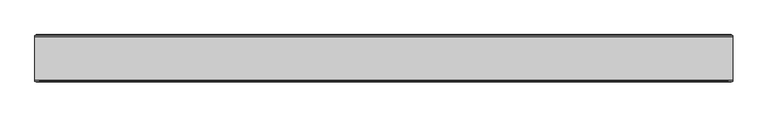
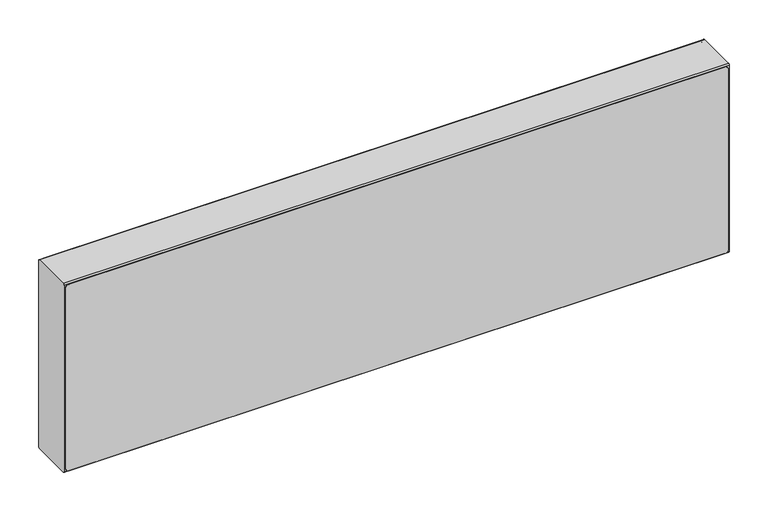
"""IFC4 building model written with IfcOpenShell, lengths in millimetres: proxy geometry, EVRA CV Д : 21-300-1000."""

import ifcopenshell
import ifcopenshell.guid

model = None  # the IFC model being written
_history = None  # IfcOwnerHistory: only IFC2X3 demands one
_inside = {}  # id of a spatial element -> (the spatial element, [elements in it])
_under = {}  # id of a project, library or spatial element -> (it, [spatial elements below it])
_declared = {}  # id of a project -> (the project, [libraries it declares])
_typed = {}  # id of a type object -> (the type object, [elements of that type])
_made_of = {}  # id of a material, layer set ... -> (it, [elements and type objects made of it])


def new_model(schema):
    """Start an empty IFC model of exactly this schema.

    Asked for "IFC4X3", IfcOpenShell would pick the latest addendum, in which some entities
    have other attributes; the version numbers below select the first issue.
    IFC2X3 requires an IfcOwnerHistory on every rooted entity: one is made here for all.
    """
    global model, _history
    if schema == "IFC4X3":
        model = ifcopenshell.file(schema_version=(4, 3, 0, 0))
    else:
        model = ifcopenshell.file(schema=schema)
    _inside.clear()
    _under.clear()
    _declared.clear()
    _typed.clear()
    _made_of.clear()
    _history = None
    if model.schema == "IFC2X3":
        org = make("IfcOrganization", Name="unknown")
        user = make(
            "IfcPersonAndOrganization",
            ThePerson=make("IfcPerson", FamilyName="unknown"),
            TheOrganization=org,
        )
        app = make(
            "IfcApplication",
            ApplicationDeveloper=org,
            Version="unknown",
            ApplicationFullName="unknown",
            ApplicationIdentifier="unknown",
        )
        _history = make(
            "IfcOwnerHistory",
            OwningUser=user,
            OwningApplication=app,
            ChangeAction="ADDED",
            CreationDate=0,
        )
    return model


def make(cls, **values):
    """One entity of the class cls with the attributes given. An attribute that is None is left unset."""
    return model.create_entity(
        cls, **{name: value for name, value in values.items() if value is not None}
    )


def rooted(cls, **values):
    """An entity with a GlobalId (a new one), such as an element, a storey or a relation."""
    return make(cls, GlobalId=ifcopenshell.guid.new(), OwnerHistory=_history, **values)


def si_unit(unit_type, name, prefix=None):
    """IfcSIUnit, for example si_unit("LENGTHUNIT", "METRE", prefix="MILLI")."""
    return make("IfcSIUnit", UnitType=unit_type, Prefix=prefix, Name=name)


def assignment(units):
    """IfcUnitAssignment: the units of a project."""
    return None if units is None else make("IfcUnitAssignment", Units=units)


def point(xyz):
    """IfcCartesianPoint."""
    return None if xyz is None else make("IfcCartesianPoint", Coordinates=xyz)


def direction(xyz):
    """IfcDirection."""
    return None if xyz is None else make("IfcDirection", DirectionRatios=xyz)


def frame(location, z_axis=None, x_axis=None):
    """IfcAxis2Placement3D, a coordinate frame: its origin and axes. An axis left out is left unset."""
    return make(
        "IfcAxis2Placement3D",
        Location=point(location),
        Axis=direction(z_axis),
        RefDirection=direction(x_axis),
    )


def frame_2d(location, x_axis=None):
    """IfcAxis2Placement2D, a coordinate frame in the plane: its origin and x axis."""
    return make(
        "IfcAxis2Placement2D", Location=point(location), RefDirection=direction(x_axis)
    )


def origin():
    """The frame at (0, 0, 0) with its axes left unset."""
    return frame((0.0, 0.0, 0.0))


def place(relative_to, where):
    """IfcLocalPlacement: puts the frame where relative to a parent placement (None: the world)."""
    return make(
        "IfcLocalPlacement", PlacementRelTo=relative_to, RelativePlacement=where
    )


def context(
    kind, dimensions, precision=None, world=None, true_north=None, identifier=None
):
    """IfcGeometricRepresentationContext, for example the 3D "Model" context."""
    return make(
        "IfcGeometricRepresentationContext",
        ContextIdentifier=identifier,
        ContextType=kind,
        CoordinateSpaceDimension=dimensions,
        Precision=precision,
        WorldCoordinateSystem=world,
        TrueNorth=true_north,
    )


def project(units=None, contexts=None):
    """IfcProject with its units and contexts."""
    return rooted(
        "IfcProject",
        Name="project",
        RepresentationContexts=contexts,
        UnitsInContext=assignment(units),
    )


def spatial(cls, under=None, at=None, **own):
    """A site, building, storey or space (cls), placed at a placement, below another one or the project."""
    s = rooted(cls, ObjectPlacement=at, **own)
    if under is not None:
        _under.setdefault(under.id(), (under, []))[1].append(s)
    return s


def polyline(points):
    """IfcPolyline through the points."""
    return make("IfcPolyline", Points=[point(p) for p in points])


def circle_curve(where, radius):
    """IfcCircle in the frame where."""
    return make("IfcCircle", Position=where, Radius=radius)


def trimmed(basis, trim1, trim2, sense, master):
    """IfcTrimmedCurve: the piece of a basis curve between two trims."""
    return make(
        "IfcTrimmedCurve",
        BasisCurve=basis,
        Trim1=trim1,
        Trim2=trim2,
        SenseAgreement=sense,
        MasterRepresentation=master,
    )


def segment(curve, same_sense, transition):
    """IfcCompositeCurveSegment."""
    return make(
        "IfcCompositeCurveSegment",
        Transition=transition,
        SameSense=same_sense,
        ParentCurve=curve,
    )


def composite_curve(segments, self_intersect=None):
    """IfcCompositeCurve: segments joined end to end."""
    return make("IfcCompositeCurve", Segments=segments, SelfIntersect=self_intersect)


def outline(outer, holes=None, kind="AREA"):
    """IfcArbitraryClosedProfileDef: a profile drawn as a closed curve; with holes, ...WithVoids."""
    if holes is None:
        return make("IfcArbitraryClosedProfileDef", ProfileType=kind, OuterCurve=outer)
    return make(
        "IfcArbitraryProfileDefWithVoids",
        ProfileType=kind,
        OuterCurve=outer,
        InnerCurves=holes,
    )


def extrude(swept, where, along, depth):
    """IfcExtrudedAreaSolid: the profile swept, set in the frame where, extruded along a direction by depth."""
    return make(
        "IfcExtrudedAreaSolid",
        SweptArea=swept,
        Position=where,
        ExtrudedDirection=direction(along),
        Depth=depth,
    )


def shape(context_of_items, identifier, shape_type, items):
    """IfcShapeRepresentation: the items that make up one representation, for example the "Body"."""
    return make(
        "IfcShapeRepresentation",
        ContextOfItems=context_of_items,
        RepresentationIdentifier=identifier,
        RepresentationType=shape_type,
        Items=items,
    )


def source(mapping_origin, context_of_items, identifier, shape_type, items):
    """IfcRepresentationMap: a shape defined once, which mapped items show again and again."""
    return make(
        "IfcRepresentationMap",
        MappingOrigin=mapping_origin,
        MappedRepresentation=shape(context_of_items, identifier, shape_type, items),
    )


def transform(
    local_origin,
    x_axis=None,
    y_axis=None,
    z_axis=None,
    scale=None,
    scale2=None,
    scale3=None,
    uniform=True,
):
    """IfcCartesianTransformationOperator3D, or its non-uniform kind. x_axis, y_axis, z_axis: its Axis1, 2, 3."""
    if uniform:
        return make(
            "IfcCartesianTransformationOperator3D",
            Axis1=direction(x_axis),
            Axis2=direction(y_axis),
            LocalOrigin=point(local_origin),
            Scale=scale,
            Axis3=direction(z_axis),
        )
    return make(
        "IfcCartesianTransformationOperator3DnonUniform",
        Axis1=direction(x_axis),
        Axis2=direction(y_axis),
        LocalOrigin=point(local_origin),
        Scale=scale,
        Axis3=direction(z_axis),
        Scale2=scale2,
        Scale3=scale3,
    )


def mapped(mapping_source, mapping_target):
    """IfcMappedItem: shows the shape of a source again, moved by a transform."""
    return make(
        "IfcMappedItem", MappingSource=mapping_source, MappingTarget=mapping_target
    )


def made_of(thing, what):
    """Note that an element or type object is made of a material, layer set ...; save() writes the relation."""
    if what is not None:
        _made_of.setdefault(what.id(), (what, []))[1].append(thing)
    return thing


def element(
    cls,
    number,
    at=None,
    inside=None,
    cuts=None,
    type_object=None,
    material=None,
    context=None,
    identifier="Body",
    shape_type=None,
    held_by="IfcProductDefinitionShape",
    body=None,
    shapes=None,
    **own,
):
    """One element of the class cls, such as IfcWall. Its Tag is "e" and its number.

    at: its placement. inside: the storey or other place that contains it. cuts: it is an
    opening in that element (IfcRelVoidsElement). A single representation is given by context,
    identifier, shape_type and body (its items); several are given by shapes. held_by: the class
    of the entity that holds the representations. save() writes the other relations.
    """
    e = rooted(cls, Tag="e%d" % number, ObjectPlacement=at, **own)
    if body is not None:
        shapes = [shape(context, identifier, shape_type, body)]
    if shapes is not None:
        e.Representation = make(held_by, Representations=shapes)
    if inside is not None:
        _inside.setdefault(inside.id(), (inside, []))[1].append(e)
    if cuts is not None:
        rooted(
            "IfcRelVoidsElement", RelatingBuildingElement=cuts, RelatedOpeningElement=e
        )
    if type_object is not None:
        _typed.setdefault(type_object.id(), (type_object, []))[1].append(e)
    return made_of(e, material)


def aggregate(whole, parts):
    """IfcRelAggregates: a whole, such as a stair, and the parts it consists of."""
    return rooted("IfcRelAggregates", RelatingObject=whole, RelatedObjects=parts)


def save(model, path):
    """Write the relations noted so far, then the file.

    IfcRelAggregates (storeys below a building ...), IfcRelContainedInSpatialStructure (elements
    in a storey), IfcRelDefinesByType, IfcRelAssociatesMaterial and IfcRelDeclares: one each for
    every whole, place, type object, material and project.
    """
    for whole, parts in _under.values():
        aggregate(whole, parts)
    for where, things in _inside.values():
        rooted(
            "IfcRelContainedInSpatialStructure",
            RelatedElements=things,
            RelatingStructure=where,
        )
    for kind, things in _typed.values():
        rooted("IfcRelDefinesByType", RelatedObjects=things, RelatingType=kind)
    for what, things in _made_of.values():
        rooted("IfcRelAssociatesMaterial", RelatedObjects=things, RelatingMaterial=what)
    for by, libraries in _declared.values():
        rooted("IfcRelDeclares", RelatingContext=by, RelatedDefinitions=libraries)
    model.write(path)


def mechanical_equipment_054ffeb9(model_context):
    return source(origin(), model_context, "Body", "SweptSolid", [
        extrude(outline(composite_curve([segment(polyline([(398.0, 693.0), (398.0, -293.0)]), True, "CONTINUOUS"), segment(trimmed(circle_curve(frame_2d((393.0, -293.0)), 5.0), [point((398.0, -293.0))], [point((393.0, -298.0))], False, "CARTESIAN"), True, "CONTINUOUS"), segment(polyline([(393.0, -298.0), (107.0, -298.0)]), True, "CONTINUOUS"), segment(trimmed(circle_curve(frame_2d((107.0, -293.0)), 5.0), [point((107.0, -298.0))], [point((102.0, -293.0))], False, "CARTESIAN"), True, "CONTINUOUS"), segment(polyline([(102.0, -293.0), (102.0, 693.0)]), True, "CONTINUOUS"), segment(trimmed(circle_curve(frame_2d((107.0, 693.0)), 5.0), [point((102.0, 693.0))], [point((107.0, 698.0))], False, "CARTESIAN"), True, "CONTINUOUS"), segment(polyline([(107.0, 698.0), (393.0, 698.0)]), True, "CONTINUOUS"), segment(trimmed(circle_curve(frame_2d((393.0, 693.0)), 5.0), [point((393.0, 698.0))], [point((398.0, 693.0))], False, "CARTESIAN"), True, "CONTINUOUS")], self_intersect=False)), frame((0.0, 11.4631102, 0.0), z_axis=(0.0, 1.0, 0.0), x_axis=(0.0, 0.0, 1.0)), (0.0, 0.0, 1.0), 1.0),
        extrude(outline(composite_curve([segment(polyline([(398.0, 693.0), (398.0, -293.0)]), True, "CONTINUOUS"), segment(trimmed(circle_curve(frame_2d((393.0, -293.0)), 5.0), [point((398.0, -293.0))], [point((393.0, -298.0))], False, "CARTESIAN"), True, "CONTINUOUS"), segment(polyline([(393.0, -298.0), (107.0, -298.0)]), True, "CONTINUOUS"), segment(trimmed(circle_curve(frame_2d((107.0, -293.0)), 5.0), [point((107.0, -298.0))], [point((102.0, -293.0))], False, "CARTESIAN"), True, "CONTINUOUS"), segment(polyline([(102.0, -293.0), (102.0, 693.0)]), True, "CONTINUOUS"), segment(trimmed(circle_curve(frame_2d((107.0, 693.0)), 5.0), [point((102.0, 693.0))], [point((107.0, 698.0))], False, "CARTESIAN"), True, "CONTINUOUS"), segment(polyline([(107.0, 698.0), (393.0, 698.0)]), True, "CONTINUOUS"), segment(trimmed(circle_curve(frame_2d((393.0, 693.0)), 5.0), [point((393.0, 698.0))], [point((398.0, 693.0))], False, "CARTESIAN"), True, "CONTINUOUS")], self_intersect=False)), frame((0.0, -55.5368898, 0.0), z_axis=(0.0, 1.0, 0.0), x_axis=(0.0, 0.0, 1.0)), (0.0, 0.0, 1.0), 1.0),
        extrude(outline(composite_curve([segment(trimmed(circle_curve(frame_2d((9.4631102, 398.0)), 2.0), [point((9.4631102, 400.0))], [point((11.4631102, 398.0))], False, "CARTESIAN"), True, "CONTINUOUS"), segment(polyline([(11.4631102, 398.0), (11.4631102, 102.0)]), True, "CONTINUOUS"), segment(trimmed(circle_curve(frame_2d((9.4631102, 102.0)), 2.0), [point((11.4631102, 102.0))], [point((9.4631102, 100.0))], False, "CARTESIAN"), True, "CONTINUOUS"), segment(polyline([(9.4631102, 100.0), (-52.5368898, 100.0)]), True, "CONTINUOUS"), segment(trimmed(circle_curve(frame_2d((-52.5368898, 102.0)), 2.0), [point((-52.5368898, 100.0))], [point((-54.5368898, 102.0))], False, "CARTESIAN"), True, "CONTINUOUS"), segment(polyline([(-54.5368898, 102.0), (-54.5368898, 398.0)]), True, "CONTINUOUS"), segment(trimmed(circle_curve(frame_2d((-52.5368898, 398.0)), 2.0), [point((-54.5368898, 398.0))], [point((-52.5368898, 400.0))], False, "CARTESIAN"), True, "CONTINUOUS"), segment(polyline([(-52.5368898, 400.0), (9.4631102, 400.0)]), True, "CONTINUOUS")], self_intersect=False)), frame((-300.0, 0.0, 0.0), z_axis=(1.0, 0.0, 0.0), x_axis=(0.0, 1.0, 0.0)), (0.0, 0.0, 1.0), 1000.0),
    ])


if __name__ == "__main__":
    model = new_model("IFC4")
    model_context = context("Model", 3, world=origin())
    ifc_project = project(units=[si_unit("LENGTHUNIT", "METRE", prefix="MILLI")], contexts=[model_context])
    site = spatial("IfcSite", under=ifc_project)
    building = spatial("IfcBuilding", under=site)
    placement = place(None, origin())
    mechanical_equipment_shape = mechanical_equipment_054ffeb9(model_context)
    element("IfcBuildingElementProxy", 1, Name="EVRA CV Д : 21-300-1000", ObjectType="EVRA CV Д : 21-300-1000", at=placement, inside=building, context=model_context, shape_type="MappedRepresentation", body=[
        mapped(mechanical_equipment_shape, transform((0.0, 0.0, 0.0), x_axis=(1.0, 0.0, 0.0), y_axis=(0.0, 1.0, 0.0), z_axis=(0.0, 0.0, 1.0))),
    ])
    save(model, "model.ifc")
